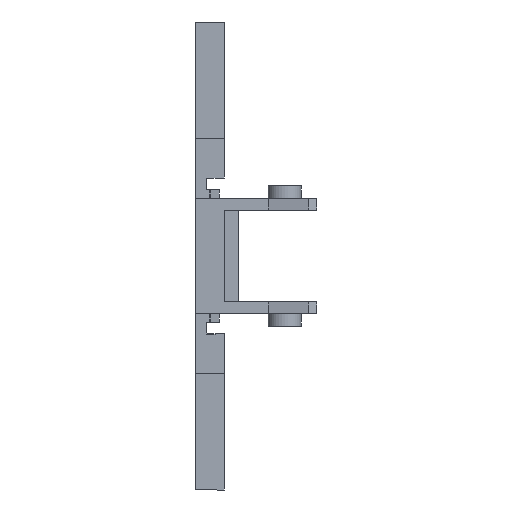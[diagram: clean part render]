
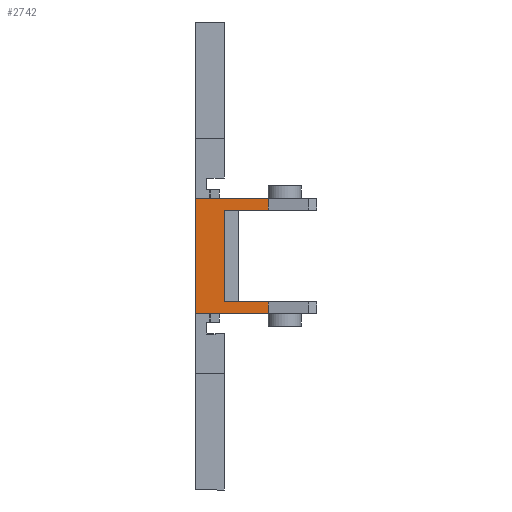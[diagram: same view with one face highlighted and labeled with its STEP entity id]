
A CAD part, front view. The second image highlights one B-rep face of the part: STEP entity #2742.
In plain terms, the highlighted planar face has unit normal (0, -1, 0).
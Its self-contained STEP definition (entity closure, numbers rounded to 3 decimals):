
#85 = CARTESIAN_POINT ( 'NONE',  ( 1., -25.55, -4.7 ) ) ;
#174 = LINE ( 'NONE', #3355, #866 ) ;
#303 = EDGE_CURVE ( 'NONE', #1679, #1400, #2864, .T. ) ;
#329 = CARTESIAN_POINT ( 'NONE',  ( -2., -25.55, 15.37 ) ) ;
#434 = ORIENTED_EDGE ( 'NONE', *, *, #3184, .F. ) ;
#447 = LINE ( 'NONE', #647, #3308 ) ;
#449 = EDGE_CURVE ( 'NONE', #2640, #1679, #447, .T. ) ;
#518 = VECTOR ( 'NONE', #2602, 1000. ) ;
#576 = DIRECTION ( 'NONE',  ( 1., 0., 0. ) ) ;
#643 = ORIENTED_EDGE ( 'NONE', *, *, #303, .T. ) ;
#647 = CARTESIAN_POINT ( 'NONE',  ( 10.5, -25.55, 5.9 ) ) ;
#688 = CARTESIAN_POINT ( 'NONE',  ( 10.5, -25.55, 4.7 ) ) ;
#743 = VERTEX_POINT ( 'NONE', #1135 ) ;
#866 = VECTOR ( 'NONE', #3107, 1000. ) ;
#869 = FACE_OUTER_BOUND ( 'NONE', #1341, .T. ) ;
#913 = EDGE_CURVE ( 'NONE', #743, #2254, #1648, .T. ) ;
#975 = VECTOR ( 'NONE', #1114, 1000. ) ;
#1047 = CARTESIAN_POINT ( 'NONE',  ( 5.523, -25.55, -5.9 ) ) ;
#1086 = LINE ( 'NONE', #2119, #3133 ) ;
#1114 = DIRECTION ( 'NONE',  ( 0., 0., -1. ) ) ;
#1135 = CARTESIAN_POINT ( 'NONE',  ( 1., -25.55, 4.7 ) ) ;
#1199 = CARTESIAN_POINT ( 'NONE',  ( 5.523, -25.55, -4.7 ) ) ;
#1265 = CARTESIAN_POINT ( 'NONE',  ( 10.5, -25.55, -5.9 ) ) ;
#1341 = EDGE_LOOP ( 'NONE', ( #1947, #1357, #3391, #3051, #643, #3160, #434, #2984 ) ) ;
#1357 = ORIENTED_EDGE ( 'NONE', *, *, #913, .T. ) ;
#1400 = VERTEX_POINT ( 'NONE', #2125 ) ;
#1476 = CARTESIAN_POINT ( 'NONE',  ( 5.523, -25.55, 5.9 ) ) ;
#1648 = LINE ( 'NONE', #688, #2687 ) ;
#1659 = DIRECTION ( 'NONE',  ( -1., 0., 0. ) ) ;
#1679 = VERTEX_POINT ( 'NONE', #2240 ) ;
#1947 = ORIENTED_EDGE ( 'NONE', *, *, #1995, .F. ) ;
#1948 = EDGE_CURVE ( 'NONE', #2539, #2591, #1086, .T. ) ;
#1995 = EDGE_CURVE ( 'NONE', #743, #2539, #2932, .T. ) ;
#2048 = VECTOR ( 'NONE', #3023, 1000. ) ;
#2119 = CARTESIAN_POINT ( 'NONE',  ( 10.5, -25.55, -4.7 ) ) ;
#2125 = CARTESIAN_POINT ( 'NONE',  ( -2., -25.55, -5.9 ) ) ;
#2240 = CARTESIAN_POINT ( 'NONE',  ( -2., -25.55, 5.9 ) ) ;
#2254 = VERTEX_POINT ( 'NONE', #2615 ) ;
#2280 = EDGE_CURVE ( 'NONE', #1400, #3125, #2809, .T. ) ;
#2324 = CARTESIAN_POINT ( 'NONE',  ( -0.5, -25.55, -5.9 ) ) ;
#2346 = DIRECTION ( 'NONE',  ( 0., 0., -1. ) ) ;
#2514 = LINE ( 'NONE', #2658, #2629 ) ;
#2539 = VERTEX_POINT ( 'NONE', #85 ) ;
#2591 = VERTEX_POINT ( 'NONE', #1199 ) ;
#2602 = DIRECTION ( 'NONE',  ( 1., 0., 0. ) ) ;
#2615 = CARTESIAN_POINT ( 'NONE',  ( 5.523, -25.55, 4.7 ) ) ;
#2629 = VECTOR ( 'NONE', #2346, 1000. ) ;
#2640 = VERTEX_POINT ( 'NONE', #1476 ) ;
#2658 = CARTESIAN_POINT ( 'NONE',  ( 5.523, -25.55, 67.733 ) ) ;
#2687 = VECTOR ( 'NONE', #3287, 1000. ) ;
#2742 = ADVANCED_FACE ( 'NONE', ( #869 ), #2870, .T. ) ;
#2771 = AXIS2_PLACEMENT_3D ( 'NONE', #1265, #3379, #2858 ) ;
#2809 = LINE ( 'NONE', #2324, #518 ) ;
#2842 = EDGE_CURVE ( 'NONE', #2640, #2254, #2514, .T. ) ;
#2858 = DIRECTION ( 'NONE',  ( -1., 0., 0. ) ) ;
#2864 = LINE ( 'NONE', #329, #975 ) ;
#2870 = PLANE ( 'NONE',  #2771 ) ;
#2932 = LINE ( 'NONE', #3038, #2048 ) ;
#2984 = ORIENTED_EDGE ( 'NONE', *, *, #1948, .F. ) ;
#3023 = DIRECTION ( 'NONE',  ( 0., 0., -1. ) ) ;
#3038 = CARTESIAN_POINT ( 'NONE',  ( 1., -25.55, -5.9 ) ) ;
#3051 = ORIENTED_EDGE ( 'NONE', *, *, #449, .T. ) ;
#3107 = DIRECTION ( 'NONE',  ( 0., 0., -1. ) ) ;
#3125 = VERTEX_POINT ( 'NONE', #1047 ) ;
#3133 = VECTOR ( 'NONE', #576, 1000. ) ;
#3160 = ORIENTED_EDGE ( 'NONE', *, *, #2280, .T. ) ;
#3184 = EDGE_CURVE ( 'NONE', #2591, #3125, #174, .T. ) ;
#3287 = DIRECTION ( 'NONE',  ( 1., 0., 0. ) ) ;
#3308 = VECTOR ( 'NONE', #1659, 1000. ) ;
#3355 = CARTESIAN_POINT ( 'NONE',  ( 5.523, -25.55, 67.733 ) ) ;
#3379 = DIRECTION ( 'NONE',  ( 0., -1., 0. ) ) ;
#3391 = ORIENTED_EDGE ( 'NONE', *, *, #2842, .F. ) ;
